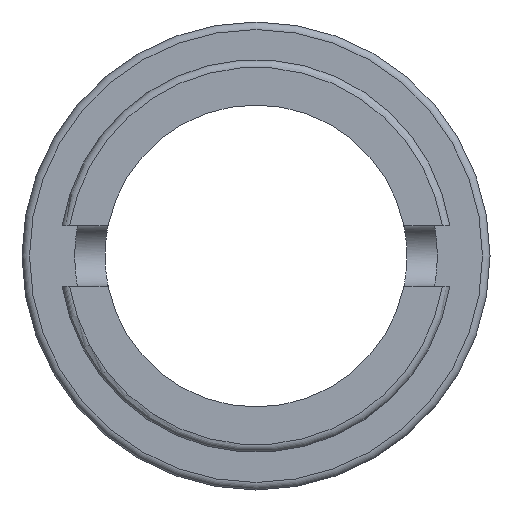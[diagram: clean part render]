
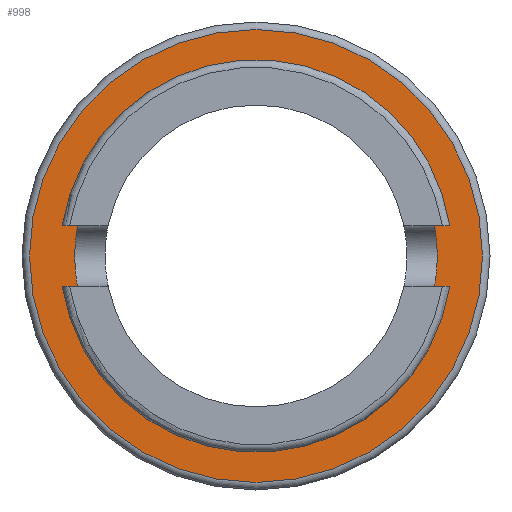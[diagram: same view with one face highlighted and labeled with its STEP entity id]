
A CAD part, left-side view. The second image highlights one B-rep face of the part: STEP entity #998.
In plain terms, the highlighted planar face has unit normal (-1, 0, 0).
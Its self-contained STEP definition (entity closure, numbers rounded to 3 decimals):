
#27=PLANE('',#1095);
#233=CIRCLE('',#1094,2.4);
#234=CIRCLE('',#1096,3.);
#348=ORIENTED_EDGE('',*,*,#638,.T.);
#349=ORIENTED_EDGE('',*,*,#637,.F.);
#637=EDGE_CURVE('',#777,#777,#233,.T.);
#638=EDGE_CURVE('',#778,#778,#234,.T.);
#777=VERTEX_POINT('',#1667);
#778=VERTEX_POINT('',#1670);
#857=EDGE_LOOP('',(#348));
#858=EDGE_LOOP('',(#349));
#923=FACE_BOUND('',#857,.T.);
#924=FACE_BOUND('',#858,.T.);
#998=ADVANCED_FACE('',(#923,#924),#27,.T.);
#1094=AXIS2_PLACEMENT_3D('',#1666,#1282,#1283);
#1095=AXIS2_PLACEMENT_3D('',#1668,#1284,#1285);
#1096=AXIS2_PLACEMENT_3D('',#1669,#1286,#1287);
#1282=DIRECTION('',(-1.,0.,0.));
#1283=DIRECTION('',(0.,0.,1.));
#1284=DIRECTION('',(-1.,0.,0.));
#1285=DIRECTION('',(0.,0.,1.));
#1286=DIRECTION('',(-1.,0.,0.));
#1287=DIRECTION('',(0.,0.,1.));
#1666=CARTESIAN_POINT('',(-0.8,0.,0.));
#1667=CARTESIAN_POINT('',(-0.8,0.,2.4));
#1668=CARTESIAN_POINT('',(-0.8,0.,2.4));
#1669=CARTESIAN_POINT('',(-0.8,0.,0.));
#1670=CARTESIAN_POINT('',(-0.8,0.,3.));
